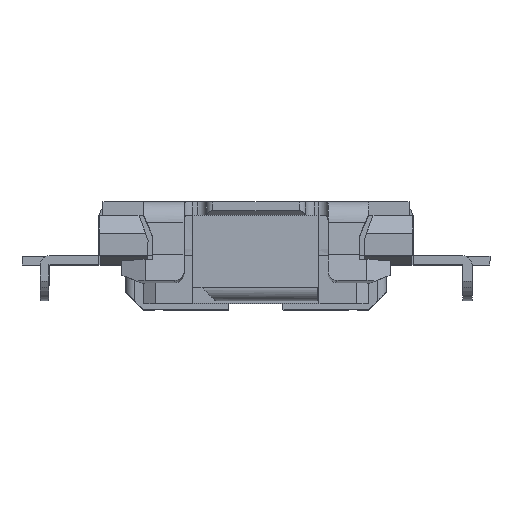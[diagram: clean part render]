
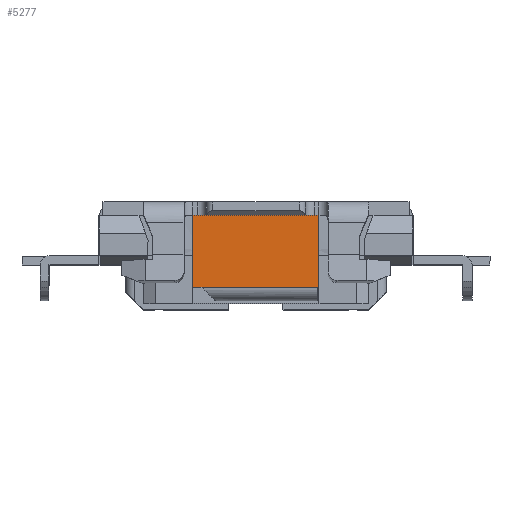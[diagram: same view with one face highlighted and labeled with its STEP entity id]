
A CAD part, top view. The second image highlights one B-rep face of the part: STEP entity #5277.
In plain terms, the highlighted planar face has unit normal (0, 0, 1).
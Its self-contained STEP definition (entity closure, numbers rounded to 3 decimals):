
#8 = EDGE_CURVE ( 'NONE', #12491, #12345, #4138, .T. ) ;
#9 = EDGE_CURVE ( 'NONE', #12403, #12491, #4145, .T. ) ;
#336 = ORIENTED_EDGE ( 'NONE', *, *, #14690, .T. ) ;
#337 = ORIENTED_EDGE ( 'NONE', *, *, #14689, .F. ) ;
#338 = ORIENTED_EDGE ( 'NONE', *, *, #3682, .T. ) ;
#339 = ORIENTED_EDGE ( 'NONE', *, *, #3632, .T. ) ;
#340 = ORIENTED_EDGE ( 'NONE', *, *, #8, .F. ) ;
#342 = ORIENTED_EDGE ( 'NONE', *, *, #9, .F. ) ;
#3143 = EDGE_LOOP ( 'NONE', ( #337, #338, #336, #339, #340, #342 ) ) ;
#3632 = EDGE_CURVE ( 'NONE', #12476, #12345, #9606, .T. ) ;
#3682 = EDGE_CURVE ( 'NONE', #12246, #12359, #9756, .T. ) ;
#4138 = LINE ( 'NONE', #4140, #14733 ) ;
#4140 = CARTESIAN_POINT ( 'NONE',  ( 0.7, 0.149, 2.05 ) ) ;
#4141 = DIRECTION ( 'NONE',  ( 0., -1., 0. ) ) ;
#4145 = LINE ( 'NONE', #4146, #14712 ) ;
#4146 = CARTESIAN_POINT ( 'NONE',  ( -0.45, 0.549, 2.05 ) ) ;
#4147 = DIRECTION ( 'NONE',  ( 1., 0., 0. ) ) ;
#5277 = ADVANCED_FACE ( 'NONE', ( #10328 ), #11009, .T. ) ;
#9606 = LINE ( 'NONE', #9607, #10154 ) ;
#9607 = CARTESIAN_POINT ( 'NONE',  ( 0.45, -0.251, 2.05 ) ) ;
#9608 = DIRECTION ( 'NONE',  ( 1., 0., 0. ) ) ;
#9756 = LINE ( 'NONE', #9757, #10206 ) ;
#9757 = CARTESIAN_POINT ( 'NONE',  ( 0.45, -0.251, 2.05 ) ) ;
#9758 = DIRECTION ( 'NONE',  ( 1., 0., 0. ) ) ;
#10154 = VECTOR ( 'NONE', #9608, 1000. ) ;
#10206 = VECTOR ( 'NONE', #9758, 1000. ) ;
#10328 = FACE_OUTER_BOUND ( 'NONE', #3143, .T. ) ;
#10348 = AXIS2_PLACEMENT_3D ( 'NONE', #11010, #11011, #11012 ) ;
#11009 = PLANE ( 'NONE',  #10348 ) ;
#11010 = CARTESIAN_POINT ( 'NONE',  ( 0.45, 0.149, 2.05 ) ) ;
#11011 = DIRECTION ( 'NONE',  ( 0., 0., 1. ) ) ;
#11012 = DIRECTION ( 'NONE',  ( 1., 0., 0. ) ) ;
#12246 = VERTEX_POINT ( 'NONE', #12834 ) ;
#12345 = VERTEX_POINT ( 'NONE', #12921 ) ;
#12359 = VERTEX_POINT ( 'NONE', #12935 ) ;
#12403 = VERTEX_POINT ( 'NONE', #12975 ) ;
#12476 = VERTEX_POINT ( 'NONE', #13047 ) ;
#12491 = VERTEX_POINT ( 'NONE', #13061 ) ;
#12834 = CARTESIAN_POINT ( 'NONE',  ( -0.7, -0.251, 2.05 ) ) ;
#12921 = CARTESIAN_POINT ( 'NONE',  ( 0.7, -0.251, 2.05 ) ) ;
#12935 = CARTESIAN_POINT ( 'NONE',  ( -0.6, -0.251, 2.05 ) ) ;
#12975 = CARTESIAN_POINT ( 'NONE',  ( -0.7, 0.549, 2.05 ) ) ;
#13047 = CARTESIAN_POINT ( 'NONE',  ( 0.68, -0.251, 2.05 ) ) ;
#13061 = CARTESIAN_POINT ( 'NONE',  ( 0.7, 0.549, 2.05 ) ) ;
#14070 = VECTOR ( 'NONE', #14212, 1000. ) ;
#14071 = VECTOR ( 'NONE', #14215, 1000. ) ;
#14210 = LINE ( 'NONE', #14211, #14070 ) ;
#14211 = CARTESIAN_POINT ( 'NONE',  ( -0.7, 0.149, 2.05 ) ) ;
#14212 = DIRECTION ( 'NONE',  ( 0., 1., 0. ) ) ;
#14213 = LINE ( 'NONE', #14214, #14071 ) ;
#14214 = CARTESIAN_POINT ( 'NONE',  ( 0.45, -0.251, 2.05 ) ) ;
#14215 = DIRECTION ( 'NONE',  ( 1., 0., 0. ) ) ;
#14689 = EDGE_CURVE ( 'NONE', #12246, #12403, #14210, .T. ) ;
#14690 = EDGE_CURVE ( 'NONE', #12359, #12476, #14213, .T. ) ;
#14712 = VECTOR ( 'NONE', #4147, 1000. ) ;
#14733 = VECTOR ( 'NONE', #4141, 1000. ) ;
